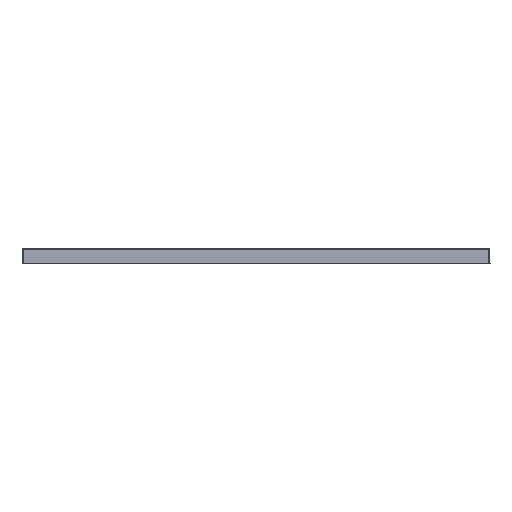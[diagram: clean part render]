
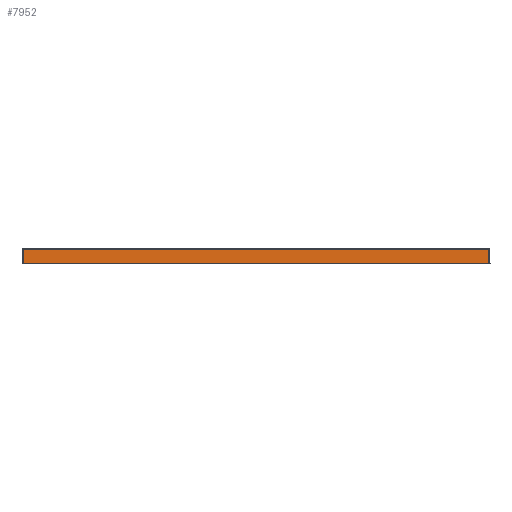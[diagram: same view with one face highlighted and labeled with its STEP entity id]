
A CAD part, front view. The second image highlights one B-rep face of the part: STEP entity #7952.
In plain terms, the highlighted free-form (B-spline) face has degree [1, 1] with [2, 2] control points.
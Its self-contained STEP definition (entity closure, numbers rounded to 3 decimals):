
#60 = CARTESIAN_POINT ( 'NONE',  ( 306.68, -1917.034, -1.97 ) ) ;
#253 = CARTESIAN_POINT ( 'NONE',  ( 354.454, -1917.034, -1.969 ) ) ;
#438 = B_SPLINE_CURVE_WITH_KNOTS ( 'NONE', 1,
 ( #5189, #11214 ),
 .UNSPECIFIED., .F., .F.,
 ( 2, 2 ),
 ( 2., 899.571 ),
 .UNSPECIFIED. ) ;
#816 = EDGE_LOOP ( 'NONE', ( #17466, #18822, #6615, #12257 ) ) ;
#1060 = CARTESIAN_POINT ( 'NONE',  ( -59.048, -1917.034, -1.97 ) ) ;
#1157 = CARTESIAN_POINT ( 'NONE',  ( -448.786, -1917.524, -30. ) ) ;
#1425 = CARTESIAN_POINT ( 'NONE',  ( 235.14, -1917.034, -1.971 ) ) ;
#1793 = CARTESIAN_POINT ( 'NONE',  ( -448.052, -1917.034, -1.965 ) ) ;
#2422 = CARTESIAN_POINT ( 'NONE',  ( -348.605, -1917.034, -1.969 ) ) ;
#3120 = CARTESIAN_POINT ( 'NONE',  ( 448.055, -1917.034, -1.965 ) ) ;
#3183 = CARTESIAN_POINT ( 'NONE',  ( 107.243, -1917.034, -1.971 ) ) ;
#3985 = CARTESIAN_POINT ( 'NONE',  ( -297.908, -1917.034, -1.97 ) ) ;
#3999 = VERTEX_POINT ( 'NONE', #5144 ) ;
#5144 = CARTESIAN_POINT ( 'NONE',  ( -448.052, -1917.034, -1.965 ) ) ;
#5189 = CARTESIAN_POINT ( 'NONE',  ( 448.786, -1917.524, -30. ) ) ;
#5367 = CARTESIAN_POINT ( 'NONE',  ( -439.045, -1917.034, -1.968 ) ) ;
#5842 = EDGE_CURVE ( 'NONE', #14823, #6661, #438, .T. ) ;
#5931 = EDGE_CURVE ( 'NONE', #14823, #8727, #9606, .T. ) ;
#5976 = CARTESIAN_POINT ( 'NONE',  ( -448.786, -1917.524, -30. ) ) ;
#6138 = CARTESIAN_POINT ( 'NONE',  ( 432.777, -1917.034, -1.97 ) ) ;
#6615 = ORIENTED_EDGE ( 'NONE', *, *, #18268, .F. ) ;
#6661 = VERTEX_POINT ( 'NONE', #1157 ) ;
#6691 = B_SPLINE_SURFACE_WITH_KNOTS ( 'NONE', 1, 1, ( 
 ( #19503, #3120 ),
 ( #5976, #15090 ) ),
 .UNSPECIFIED., .F., .F., .F.,
 ( 2, 2 ),
 ( 2, 2 ),
 ( 2., 899.571 ),
 ( 0., 1. ),
 .UNSPECIFIED. ) ;
#6959 = CARTESIAN_POINT ( 'NONE',  ( 448.786, -1917.524, -30. ) ) ;
#7952 = ADVANCED_FACE ( 'NONE', ( #16552 ), #6691, .F. ) ;
#8671 = CARTESIAN_POINT ( 'NONE',  ( 448.052, -1917.034, -1.965 ) ) ;
#8727 = VERTEX_POINT ( 'NONE', #8671 ) ;
#8808 = CARTESIAN_POINT ( 'NONE',  ( 401.578, -1917.034, -1.966 ) ) ;
#9026 = CARTESIAN_POINT ( 'NONE',  ( 448.216, -1917.144, -8.229 ) ) ;
#9391 = EDGE_CURVE ( 'NONE', #6661, #3999, #17425, .T. ) ;
#9606 = B_SPLINE_CURVE_WITH_KNOTS ( 'NONE', 3,
 ( #14401, #13473, #11796, #9026, #17708 ),
 .UNSPECIFIED., .F., .F.,
 ( 4, 1, 4 ),
 ( 0.017, 9.267, 28.066 ),
 .UNSPECIFIED. ) ;
#11214 = CARTESIAN_POINT ( 'NONE',  ( -448.786, -1917.524, -30. ) ) ;
#11399 = CARTESIAN_POINT ( 'NONE',  ( -420.381, -1917.034, -1.965 ) ) ;
#11796 = CARTESIAN_POINT ( 'NONE',  ( 448.46, -1917.307, -17.573 ) ) ;
#12173 = CARTESIAN_POINT ( 'NONE',  ( 448.052, -1917.034, -1.965 ) ) ;
#12257 = ORIENTED_EDGE ( 'NONE', *, *, #9391, .F. ) ;
#13473 = CARTESIAN_POINT ( 'NONE',  ( 448.705, -1917.47, -26.918 ) ) ;
#14401 = CARTESIAN_POINT ( 'NONE',  ( 448.786, -1917.524, -30. ) ) ;
#14581 = CARTESIAN_POINT ( 'NONE',  ( -207.377, -1917.034, -1.971 ) ) ;
#14823 = VERTEX_POINT ( 'NONE', #6959 ) ;
#15090 = CARTESIAN_POINT ( 'NONE',  ( -448.055, -1917.034, -1.965 ) ) ;
#15140 = CARTESIAN_POINT ( 'NONE',  ( -448.46, -1917.307, -17.573 ) ) ;
#15595 = B_SPLINE_CURVE_WITH_KNOTS ( 'NONE', 3,
 ( #18900, #5367, #11399, #15954, #2422, #3985, #14581, #1060, #3183, #1425, #60, #253, #8808, #6138, #12173 ),
 .UNSPECIFIED., .F., .F.,
 ( 4, 1, 1, 1, 1, 1, 1, 1, 1, 1, 1, 1, 4 ),
 ( 1.949, 28.97, 57.94, 101.395, 144.85, 210.033, 372.989, 589.835, 708.907, 756.681, 804.454, 852.228, 898.052 ),
 .UNSPECIFIED. ) ;
#15954 = CARTESIAN_POINT ( 'NONE',  ( -387.232, -1917.034, -1.969 ) ) ;
#16552 = FACE_OUTER_BOUND ( 'NONE', #816, .T. ) ;
#17425 = B_SPLINE_CURVE_WITH_KNOTS ( 'NONE', 3,
 ( #18068, #18363, #15140, #18267, #1793 ),
 .UNSPECIFIED., .F., .F.,
 ( 4, 1, 4 ),
 ( 0.017, 9.267, 28.066 ),
 .UNSPECIFIED. ) ;
#17466 = ORIENTED_EDGE ( 'NONE', *, *, #5842, .F. ) ;
#17708 = CARTESIAN_POINT ( 'NONE',  ( 448.052, -1917.034, -1.965 ) ) ;
#18068 = CARTESIAN_POINT ( 'NONE',  ( -448.786, -1917.524, -30. ) ) ;
#18267 = CARTESIAN_POINT ( 'NONE',  ( -448.216, -1917.144, -8.229 ) ) ;
#18268 = EDGE_CURVE ( 'NONE', #3999, #8727, #15595, .T. ) ;
#18363 = CARTESIAN_POINT ( 'NONE',  ( -448.705, -1917.47, -26.918 ) ) ;
#18822 = ORIENTED_EDGE ( 'NONE', *, *, #5931, .T. ) ;
#18900 = CARTESIAN_POINT ( 'NONE',  ( -448.052, -1917.034, -1.965 ) ) ;
#19503 = CARTESIAN_POINT ( 'NONE',  ( 448.786, -1917.524, -30. ) ) ;
